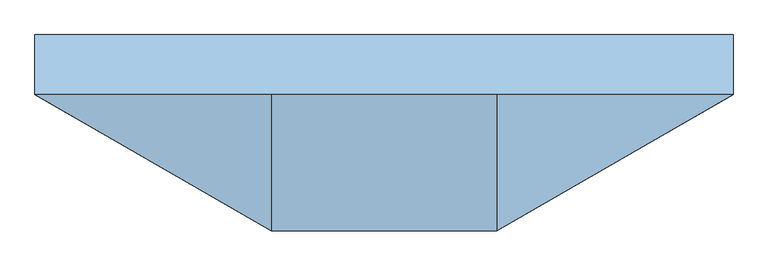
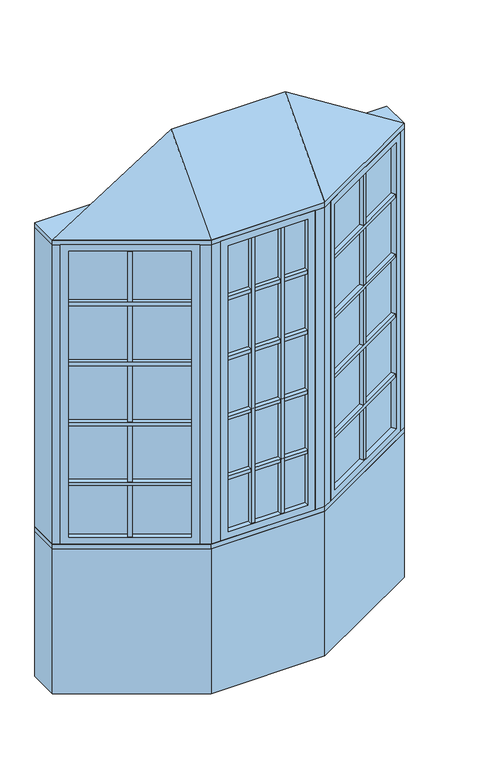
"""IFC4 building model written with IfcOpenShell, lengths in millimetres: window geometry, Pollard_Windows_Tudor Casement Bows and Bays : AML-BAY 30 AFR0516-08-600_GC."""

from ifc_helpers import new_model, si_unit, frame, origin, origin_with_axes, place, context, project, spatial, polyline, outline, extrude, faceted_brep, source, transform, mapped, element, save


def window_d44ed7bf(model_context):
    return source(origin(), model_context, "Body", "SolidModel", [
        extrude(outline(polyline([(360.381999, -376.6297343), (349.381999, -357.5771754), (815.6135794, -88.3982469), (826.6135794, -107.4508058), (360.381999, -376.6297343)])), frame((0.0, 0.0, 1110.998), z_axis=(0.0, 0.0, 1.0), x_axis=(1.0, 0.0, 0.0)), (0.0, 0.0, 1.0), 18.0),
        extrude(outline(polyline([(346.841999, -353.1777664), (335.841999, -334.1252075), (802.0735794, -64.946279), (813.0735794, -83.9988379), (346.841999, -353.1777664)])), frame((0.0, 0.0, 1110.998), z_axis=(0.0, 0.0, 1.0), x_axis=(1.0, 0.0, 0.0)), (0.0, 0.0, 1.0), 18.0),
        extrude(outline(polyline([(360.381999, -376.6297343), (349.381999, -357.5771754), (815.6135794, -88.3982469), (826.6135794, -107.4508058), (360.381999, -376.6297343)])), frame((0.0, 0.0, 1430.998), z_axis=(0.0, 0.0, 1.0), x_axis=(1.0, 0.0, 0.0)), (0.0, 0.0, 1.0), 18.0),
        extrude(outline(polyline([(346.841999, -353.1777664), (335.841999, -334.1252075), (802.0735794, -64.946279), (813.0735794, -83.9988379), (346.841999, -353.1777664)])), frame((0.0, 0.0, 1430.998), z_axis=(0.0, 0.0, 1.0), x_axis=(1.0, 0.0, 0.0)), (0.0, 0.0, 1.0), 18.0),
        extrude(outline(polyline([(360.381999, -376.6297343), (349.381999, -357.5771754), (815.6135794, -88.3982469), (826.6135794, -107.4508058), (360.381999, -376.6297343)])), frame((0.0, 0.0, 1750.998), z_axis=(0.0, 0.0, 1.0), x_axis=(1.0, 0.0, 0.0)), (0.0, 0.0, 1.0), 18.0),
        extrude(outline(polyline([(346.841999, -353.1777664), (335.841999, -334.1252075), (802.0735794, -64.946279), (813.0735794, -83.9988379), (346.841999, -353.1777664)])), frame((0.0, 0.0, 1750.998), z_axis=(0.0, 0.0, 1.0), x_axis=(1.0, 0.0, 0.0)), (0.0, 0.0, 1.0), 18.0),
        extrude(outline(polyline([(360.381999, -376.6297343), (349.381999, -357.5771754), (815.6135794, -88.3982469), (826.6135794, -107.4508058), (360.381999, -376.6297343)])), frame((0.0, 0.0, 2070.998), z_axis=(0.0, 0.0, 1.0), x_axis=(1.0, 0.0, 0.0)), (0.0, 0.0, 1.0), 18.0),
        extrude(outline(polyline([(346.841999, -353.1777664), (335.841999, -334.1252075), (802.0735794, -64.946279), (813.0735794, -83.9988379), (346.841999, -353.1777664)])), frame((0.0, 0.0, 2070.998), z_axis=(0.0, 0.0, 1.0), x_axis=(1.0, 0.0, 0.0)), (0.0, 0.0, 1.0), 18.0),
        extrude(outline(polyline([(590.2920178, -218.4877112), (601.2920178, -237.5402701), (585.7035606, -246.5402701), (574.7035606, -227.4877112), (590.2920178, -218.4877112)])), frame((0.0, 0.0, 835.8628), z_axis=(0.0, 0.0, 1.0), x_axis=(1.0, 0.0, 0.0)), (0.0, 0.0, 1.0), 1528.2704),
        extrude(outline(polyline([(587.7520178, -214.0883021), (572.1635606, -223.0883021), (561.1635606, -204.0357432), (576.7520178, -195.0357432), (587.7520178, -214.0883021)])), frame((0.0, 0.0, 835.8628), z_axis=(0.0, 0.0, 1.0), x_axis=(1.0, 0.0, 0.0)), (0.0, 0.0, 1.0), 1528.2704),
        extrude(outline(polyline([(826.612102, -82.0482469), (338.3834764, -363.9271754), (335.8434764, -359.5277664), (824.072102, -77.6488379), (826.612102, -82.0482469)])), frame((0.0, 0.0, 823.1628), z_axis=(0.0, 0.0, 1.0), x_axis=(1.0, 0.0, 0.0)), (0.0, 0.0, 1.0), 1553.6704),
        faceted_brep([(815.6135794, -88.3982469, 835.8628), (828.3135794, -110.3952922, 835.8628), (828.3135794, -110.3952922, 2364.1332), (815.6135794, -88.3982469, 2364.1332), (824.072102, -77.6488379, 823.1628), (826.612102, -82.0482469, 823.1628), (826.612102, -82.0482469, 2376.8332), (824.072102, -77.6488379, 2376.8332), (800.3735794, -62.0017926, 835.8628), (813.0735794, -83.9988379, 835.8628), (813.0735794, -83.9988379, 2364.1332), (800.3735794, -62.0017926, 2364.1332), (859.3734073, -92.4628922, 799.998), (831.4334073, -44.0693926, 799.998), (831.4334073, -44.0693926, 2399.998), (859.3734073, -92.4628922, 2399.998), (362.081999, -379.5742207, 2364.1332), (349.381999, -357.5771754, 2364.1332), (338.3834764, -363.9271754, 2376.8332), (335.8434764, -359.5277664, 2376.8332), (346.841999, -353.1777664, 2364.1332), (334.141999, -331.1807211, 2364.1332), (303.0821711, -349.1131211, 2399.998), (331.0221711, -397.5066207, 2399.998), (362.081999, -379.5742207, 835.8628), (349.381999, -357.5771754, 835.8628), (338.3834764, -363.9271754, 823.1628), (335.8434764, -359.5277664, 823.1628), (346.841999, -353.1777664, 835.8628), (334.141999, -331.1807211, 835.8628), (303.0821711, -349.1131211, 799.998), (331.0221711, -397.5066207, 799.998)], [[[0, 1, 2, 3]], [[4, 5, 6, 7]], [[8, 9, 10, 11]], [[12, 13, 14, 15]], [[3, 2, 16, 17]], [[7, 6, 18, 19]], [[11, 10, 20, 21]], [[15, 14, 22, 23]], [[17, 16, 24, 25]], [[19, 18, 26, 27]], [[21, 20, 28, 29]], [[23, 22, 30, 31]], [[25, 24, 1, 0]], [[5, 26, 18, 6], [3, 17, 25, 0]], [[27, 26, 5, 4]], [[7, 19, 27, 4], [9, 28, 20, 10]], [[29, 28, 9, 8]], [[13, 30, 22, 14], [11, 21, 29, 8]], [[31, 30, 13, 12]], [[15, 23, 31, 12], [1, 24, 16, 2]]]),
        extrude(outline(polyline([(83.5188336, -397.1066207), (83.5188336, -419.1066207), (65.5188336, -419.1066207), (65.5188336, -397.1066207), (83.5188336, -397.1066207)])), frame((0.0, 0.0, 835.8628), z_axis=(0.0, 0.0, 1.0), x_axis=(1.0, 0.0, 0.0)), (0.0, 0.0, 1.0), 1528.2704),
        extrude(outline(polyline([(83.5188336, -392.0266207), (65.5188336, -392.0266207), (65.5188336, -370.0266207), (83.5188336, -370.0266207), (83.5188336, -392.0266207)])), frame((0.0, 0.0, 835.8628), z_axis=(0.0, 0.0, 1.0), x_axis=(1.0, 0.0, 0.0)), (0.0, 0.0, 1.0), 1528.2704),
        extrude(outline(polyline([(-65.5188336, -397.1066207), (-65.5188336, -419.1066207), (-83.5188336, -419.1066207), (-83.5188336, -397.1066207), (-65.5188336, -397.1066207)])), frame((0.0, 0.0, 835.8628), z_axis=(0.0, 0.0, 1.0), x_axis=(1.0, 0.0, 0.0)), (0.0, 0.0, 1.0), 1528.2704),
        extrude(outline(polyline([(-65.5188336, -392.0266207), (-83.5188336, -392.0266207), (-83.5188336, -370.0266207), (-65.5188336, -370.0266207), (-65.5188336, -392.0266207)])), frame((0.0, 0.0, 835.8628), z_axis=(0.0, 0.0, 1.0), x_axis=(1.0, 0.0, 0.0)), (0.0, 0.0, 1.0), 1528.2704),
        extrude(outline(polyline([(-201.8561009, -419.1066207), (-201.8561009, -397.1066207), (201.8561009, -397.1066207), (201.8561009, -419.1066207), (-201.8561009, -419.1066207)])), frame((0.0, 0.0, 1110.998), z_axis=(0.0, 0.0, 1.0), x_axis=(1.0, 0.0, 0.0)), (0.0, 0.0, 1.0), 18.0),
        extrude(outline(polyline([(-201.8561009, -392.0266207), (-201.8561009, -370.0266207), (201.8561009, -370.0266207), (201.8561009, -392.0266207), (-201.8561009, -392.0266207)])), frame((0.0, 0.0, 1110.998), z_axis=(0.0, 0.0, 1.0), x_axis=(1.0, 0.0, 0.0)), (0.0, 0.0, 1.0), 18.0),
        extrude(outline(polyline([(-201.8561009, -419.1066207), (-201.8561009, -397.1066207), (201.8561009, -397.1066207), (201.8561009, -419.1066207), (-201.8561009, -419.1066207)])), frame((0.0, 0.0, 1430.998), z_axis=(0.0, 0.0, 1.0), x_axis=(1.0, 0.0, 0.0)), (0.0, 0.0, 1.0), 18.0),
        extrude(outline(polyline([(-201.8561009, -392.0266207), (-201.8561009, -370.0266207), (201.8561009, -370.0266207), (201.8561009, -392.0266207), (-201.8561009, -392.0266207)])), frame((0.0, 0.0, 1430.998), z_axis=(0.0, 0.0, 1.0), x_axis=(1.0, 0.0, 0.0)), (0.0, 0.0, 1.0), 18.0),
        extrude(outline(polyline([(-201.8561009, -419.1066207), (-201.8561009, -397.1066207), (201.8561009, -397.1066207), (201.8561009, -419.1066207), (-201.8561009, -419.1066207)])), frame((0.0, 0.0, 1750.998), z_axis=(0.0, 0.0, 1.0), x_axis=(1.0, 0.0, 0.0)), (0.0, 0.0, 1.0), 18.0),
        extrude(outline(polyline([(-201.8561009, -392.0266207), (-201.8561009, -370.0266207), (201.8561009, -370.0266207), (201.8561009, -392.0266207), (-201.8561009, -392.0266207)])), frame((0.0, 0.0, 1750.998), z_axis=(0.0, 0.0, 1.0), x_axis=(1.0, 0.0, 0.0)), (0.0, 0.0, 1.0), 18.0),
        extrude(outline(polyline([(-826.6135794, -107.4508058), (-815.6135794, -88.3982469), (-349.381999, -357.5771754), (-360.381999, -376.6297343), (-826.6135794, -107.4508058)])), frame((0.0, 0.0, 1110.998), z_axis=(0.0, 0.0, 1.0), x_axis=(1.0, 0.0, 0.0)), (0.0, 0.0, 1.0), 18.0),
        extrude(outline(polyline([(-813.0735794, -83.9988379), (-802.0735794, -64.946279), (-335.841999, -334.1252075), (-346.841999, -353.1777664), (-813.0735794, -83.9988379)])), frame((0.0, 0.0, 1110.998), z_axis=(0.0, 0.0, 1.0), x_axis=(1.0, 0.0, 0.0)), (0.0, 0.0, 1.0), 18.0),
        extrude(outline(polyline([(-826.6135794, -107.4508058), (-815.6135794, -88.3982469), (-349.381999, -357.5771754), (-360.381999, -376.6297343), (-826.6135794, -107.4508058)])), frame((0.0, 0.0, 1430.998), z_axis=(0.0, 0.0, 1.0), x_axis=(1.0, 0.0, 0.0)), (0.0, 0.0, 1.0), 18.0),
        extrude(outline(polyline([(-813.0735794, -83.9988379), (-802.0735794, -64.946279), (-335.841999, -334.1252075), (-346.841999, -353.1777664), (-813.0735794, -83.9988379)])), frame((0.0, 0.0, 1430.998), z_axis=(0.0, 0.0, 1.0), x_axis=(1.0, 0.0, 0.0)), (0.0, 0.0, 1.0), 18.0),
        extrude(outline(polyline([(-826.6135794, -107.4508058), (-815.6135794, -88.3982469), (-349.381999, -357.5771754), (-360.381999, -376.6297343), (-826.6135794, -107.4508058)])), frame((0.0, 0.0, 1750.998), z_axis=(0.0, 0.0, 1.0), x_axis=(1.0, 0.0, 0.0)), (0.0, 0.0, 1.0), 18.0),
        extrude(outline(polyline([(-813.0735794, -83.9988379), (-802.0735794, -64.946279), (-335.841999, -334.1252075), (-346.841999, -353.1777664), (-813.0735794, -83.9988379)])), frame((0.0, 0.0, 1750.998), z_axis=(0.0, 0.0, 1.0), x_axis=(1.0, 0.0, 0.0)), (0.0, 0.0, 1.0), 18.0),
        extrude(outline(polyline([(-826.6135794, -107.4508058), (-815.6135794, -88.3982469), (-349.381999, -357.5771754), (-360.381999, -376.6297343), (-826.6135794, -107.4508058)])), frame((0.0, 0.0, 2070.998), z_axis=(0.0, 0.0, 1.0), x_axis=(1.0, 0.0, 0.0)), (0.0, 0.0, 1.0), 18.0),
        extrude(outline(polyline([(-813.0735794, -83.9988379), (-802.0735794, -64.946279), (-335.841999, -334.1252075), (-346.841999, -353.1777664), (-813.0735794, -83.9988379)])), frame((0.0, 0.0, 2070.998), z_axis=(0.0, 0.0, 1.0), x_axis=(1.0, 0.0, 0.0)), (0.0, 0.0, 1.0), 18.0),
        extrude(outline(polyline([(-201.8561009, -419.1066207), (-201.8561009, -397.1066207), (201.8561009, -397.1066207), (201.8561009, -419.1066207), (-201.8561009, -419.1066207)])), frame((0.0, 0.0, 2070.998), z_axis=(0.0, 0.0, 1.0), x_axis=(1.0, 0.0, 0.0)), (0.0, 0.0, 1.0), 18.0),
        extrude(outline(polyline([(-201.8561009, -392.0266207), (-201.8561009, -370.0266207), (201.8561009, -370.0266207), (201.8561009, -392.0266207), (-201.8561009, -392.0266207)])), frame((0.0, 0.0, 2070.998), z_axis=(0.0, 0.0, 1.0), x_axis=(1.0, 0.0, 0.0)), (0.0, 0.0, 1.0), 18.0),
        extrude(outline(polyline([(-574.7035606, -227.4877112), (-585.7035606, -246.5402701), (-601.2920178, -237.5402701), (-590.2920178, -218.4877112), (-574.7035606, -227.4877112)])), frame((0.0, 0.0, 835.8628), z_axis=(0.0, 0.0, 1.0), x_axis=(1.0, 0.0, 0.0)), (0.0, 0.0, 1.0), 1528.2704),
        extrude(outline(polyline([(-572.1635606, -223.0883021), (-587.7520178, -214.0883021), (-576.7520178, -195.0357432), (-561.1635606, -204.0357432), (-572.1635606, -223.0883021)])), frame((0.0, 0.0, 835.8628), z_axis=(0.0, 0.0, 1.0), x_axis=(1.0, 0.0, 0.0)), (0.0, 0.0, 1.0), 1528.2704),
        extrude(outline(polyline([(-338.3834764, -363.9271754), (-826.612102, -82.0482469), (-824.072102, -77.6488379), (-335.8434764, -359.5277664), (-338.3834764, -363.9271754)])), frame((0.0, 0.0, 823.1628), z_axis=(0.0, 0.0, 1.0), x_axis=(1.0, 0.0, 0.0)), (0.0, 0.0, 1.0), 1553.6704),
        faceted_brep([(-346.841999, -353.1777664, 2364.1332), (-334.141999, -331.1807211, 2364.1332), (-334.141999, -331.1807211, 835.8628), (-346.841999, -353.1777664, 835.8628), (-338.3834764, -363.9271754, 2376.8332), (-335.8434764, -359.5277664, 2376.8332), (-335.8434764, -359.5277664, 823.1628), (-338.3834764, -363.9271754, 823.1628), (-362.081999, -379.5742207, 2364.1332), (-349.381999, -357.5771754, 2364.1332), (-349.381999, -357.5771754, 835.8628), (-362.081999, -379.5742207, 835.8628), (-303.0821711, -349.1131211, 2399.998), (-331.0221711, -397.5066207, 2399.998), (-331.0221711, -397.5066207, 799.998), (-303.0821711, -349.1131211, 799.998), (-800.3735794, -62.0017926, 835.8628), (-813.0735794, -83.9988379, 835.8628), (-824.072102, -77.6488379, 823.1628), (-826.612102, -82.0482469, 823.1628), (-815.6135794, -88.3982469, 835.8628), (-828.3135794, -110.3952922, 835.8628), (-859.3734073, -92.4628922, 799.998), (-831.4334073, -44.0693926, 799.998), (-800.3735794, -62.0017926, 2364.1332), (-813.0735794, -83.9988379, 2364.1332), (-824.072102, -77.6488379, 2376.8332), (-826.612102, -82.0482469, 2376.8332), (-815.6135794, -88.3982469, 2364.1332), (-828.3135794, -110.3952922, 2364.1332), (-859.3734073, -92.4628922, 2399.998), (-831.4334073, -44.0693926, 2399.998)], [[[0, 1, 2, 3]], [[4, 5, 6, 7]], [[8, 9, 10, 11]], [[12, 13, 14, 15]], [[3, 2, 16, 17]], [[7, 6, 18, 19]], [[11, 10, 20, 21]], [[15, 14, 22, 23]], [[17, 16, 24, 25]], [[19, 18, 26, 27]], [[21, 20, 28, 29]], [[23, 22, 30, 31]], [[15, 23, 31, 12], [1, 24, 16, 2]], [[25, 24, 1, 0]], [[5, 26, 18, 6], [3, 17, 25, 0]], [[27, 26, 5, 4]], [[7, 19, 27, 4], [9, 28, 20, 10]], [[29, 28, 9, 8]], [[13, 30, 22, 14], [11, 21, 29, 8]], [[31, 30, 13, 12]]]),
        extrude(outline(polyline([(214.5561009, -397.1066207), (-214.5561009, -397.1066207), (-214.5561009, -392.0266207), (214.5561009, -392.0266207), (214.5561009, -397.1066207)])), frame((0.0, 0.0, 823.1628), z_axis=(0.0, 0.0, 1.0), x_axis=(1.0, 0.0, 0.0)), (0.0, 0.0, 1.0), 1553.6704),
        faceted_brep([(201.8561009, -397.1066207, 835.8628), (201.8561009, -422.5066207, 835.8628), (201.8561009, -422.5066207, 2364.1332), (201.8561009, -397.1066207, 2364.1332), (214.5561009, -392.0266207, 823.1628), (214.5561009, -397.1066207, 823.1628), (214.5561009, -397.1066207, 2376.8332), (214.5561009, -392.0266207, 2376.8332), (201.8561009, -366.6266207, 835.8628), (201.8561009, -392.0266207, 835.8628), (201.8561009, -392.0266207, 2364.1332), (201.8561009, -366.6266207, 2364.1332), (237.7209009, -422.5066207, 799.998), (237.7209009, -366.6266207, 799.998), (237.7209009, -366.6266207, 2399.998), (237.7209009, -422.5066207, 2399.998), (-201.8561009, -422.5066207, 2364.1332), (-201.8561009, -397.1066207, 2364.1332), (-214.5561009, -397.1066207, 2376.8332), (-214.5561009, -392.0266207, 2376.8332), (-201.8561009, -392.0266207, 2364.1332), (-201.8561009, -366.6266207, 2364.1332), (-237.7209009, -366.6266207, 2399.998), (-237.7209009, -422.5066207, 2399.998), (-201.8561009, -422.5066207, 835.8628), (-201.8561009, -397.1066207, 835.8628), (-214.5561009, -397.1066207, 823.1628), (-214.5561009, -392.0266207, 823.1628), (-201.8561009, -392.0266207, 835.8628), (-201.8561009, -366.6266207, 835.8628), (-237.7209009, -366.6266207, 799.998), (-237.7209009, -422.5066207, 799.998)], [[[0, 1, 2, 3]], [[4, 5, 6, 7]], [[8, 9, 10, 11]], [[12, 13, 14, 15]], [[3, 2, 16, 17]], [[7, 6, 18, 19]], [[11, 10, 20, 21]], [[15, 14, 22, 23]], [[17, 16, 24, 25]], [[19, 18, 26, 27]], [[21, 20, 28, 29]], [[23, 22, 30, 31]], [[15, 23, 31, 12], [1, 24, 16, 2]], [[25, 24, 1, 0]], [[5, 26, 18, 6], [3, 17, 25, 0]], [[27, 26, 5, 4]], [[7, 19, 27, 4], [9, 28, 20, 10]], [[29, 28, 9, 8]], [[13, 30, 22, 14], [11, 21, 29, 8]], [[31, 30, 13, 12]]]),
        faceted_brep([(890.0, -74.7806207, 2425.398), (287.7209009, -422.5066207, 2425.398), (-287.7209009, -422.5066207, 2425.398), (-890.0, -74.7806207, 2425.398), (-287.7209009, -74.7806207, 2806.398), (287.7209009, -74.7806207, 2806.398)], [[[0, 1, 2, 3]], [[3, 2, 4]], [[2, 1, 5, 4]], [[1, 0, 5]], [[0, 3, 4, 5]]]),
        extrude(outline(polyline([(-890.0, 77.6193793), (890.0, 77.6193793), (890.0, -74.7806207), (287.7209009, -422.5066207), (-287.7209009, -422.5066207), (-890.0, -74.7806207), (-890.0, 77.6193793)])), frame((0.0, 0.0, 2399.998), z_axis=(0.0, 0.0, 1.0), x_axis=(1.0, 0.0, 0.0)), (0.0, 0.0, 1.0), 25.4),
        extrude(outline(polyline([(-890.0, -74.7806207), (-890.0, 77.6193793), (-849.1645431, 77.6193793), (-849.1645431, -74.7806207), (-859.3734073, -92.4628922), (-890.0, -74.7806207)])), frame((0.0, 0.0, 799.998), z_axis=(0.0, 0.0, 1.0), x_axis=(1.0, 0.0, 0.0)), (0.0, 0.0, 1.0), 1600.0),
        extrude(outline(polyline([(890.0, 77.6193793), (890.0, -74.7806207), (859.3734073, -92.4628922), (849.1645431, -74.7806207), (849.1645431, 77.6193793), (890.0, 77.6193793)])), frame((0.0, 0.0, 799.998), z_axis=(0.0, 0.0, 1.0), x_axis=(1.0, 0.0, 0.0)), (0.0, 0.0, 1.0), 1600.0),
        extrude(outline(polyline([(287.7209009, -422.5066207), (237.7209009, -422.5066207), (237.7209009, -372.5066207), (274.3234413, -372.5066207), (306.0221711, -354.2053505), (331.0221711, -397.5066207), (287.7209009, -422.5066207)])), frame((0.0, 0.0, 799.998), z_axis=(0.0, 0.0, 1.0), x_axis=(1.0, 0.0, 0.0)), (0.0, 0.0, 1.0), 1600.0),
        extrude(outline(polyline([(-287.7209009, -422.5066207), (-331.0221711, -397.5066207), (-306.0221711, -354.2053505), (-274.3234413, -372.5066207), (-237.7209009, -372.5066207), (-237.7209009, -422.5066207), (-287.7209009, -422.5066207)])), frame((0.0, 0.0, 799.998), z_axis=(0.0, 0.0, 1.0), x_axis=(1.0, 0.0, 0.0)), (0.0, 0.0, 1.0), 1600.0),
        extrude(outline(polyline([(-287.7209009, -422.5066207), (-890.0, -74.7806207), (-890.0, 77.6193793), (-849.1645431, 77.6193793), (-246.885444, -270.1066207), (246.885444, -270.1066207), (849.1645431, 77.6193793), (890.0, 77.6193793), (890.0, -74.7806207), (287.7209009, -422.5066207), (-287.7209009, -422.5066207)])), frame((0.0, 0.0, 774.598), z_axis=(0.0, 0.0, 1.0), x_axis=(1.0, 0.0, 0.0)), (0.0, 0.0, 1.0), 25.4),
        extrude(outline(polyline([(-890.0, -74.7806207), (-890.0, 77.6193793), (-849.1645431, 77.6193793), (-246.885444, -270.1066207), (246.885444, -270.1066207), (849.1645431, 77.6193793), (890.0, 77.6193793), (890.0, -74.7806207), (287.7209009, -422.5066207), (-287.7209009, -422.5066207), (-890.0, -74.7806207)])), origin_with_axes(), (0.0, 0.0, 1.0), 774.598),
    ])


if __name__ == "__main__":
    model = new_model("IFC4")
    model_context = context("Model", 3, world=origin())
    ifc_project = project(units=[si_unit("LENGTHUNIT", "METRE", prefix="MILLI")], contexts=[model_context])
    site = spatial("IfcSite", under=ifc_project)
    building = spatial("IfcBuilding", under=site)
    placement = place(None, origin())
    window_shape = window_d44ed7bf(model_context)
    element("IfcWindow", 1, ObjectType="Pollard_Windows_Tudor Casement Bows and Bays : AML-BAY 30 AFR0516-08-600_GC", at=placement, inside=building, context=model_context, shape_type="MappedRepresentation", body=[
        mapped(window_shape, transform((0.0, 0.0, 0.0), x_axis=(1.0, 0.0, 0.0), y_axis=(0.0, 1.0, 0.0), z_axis=(0.0, 0.0, 1.0))),
    ])
    save(model, "model.ifc")
